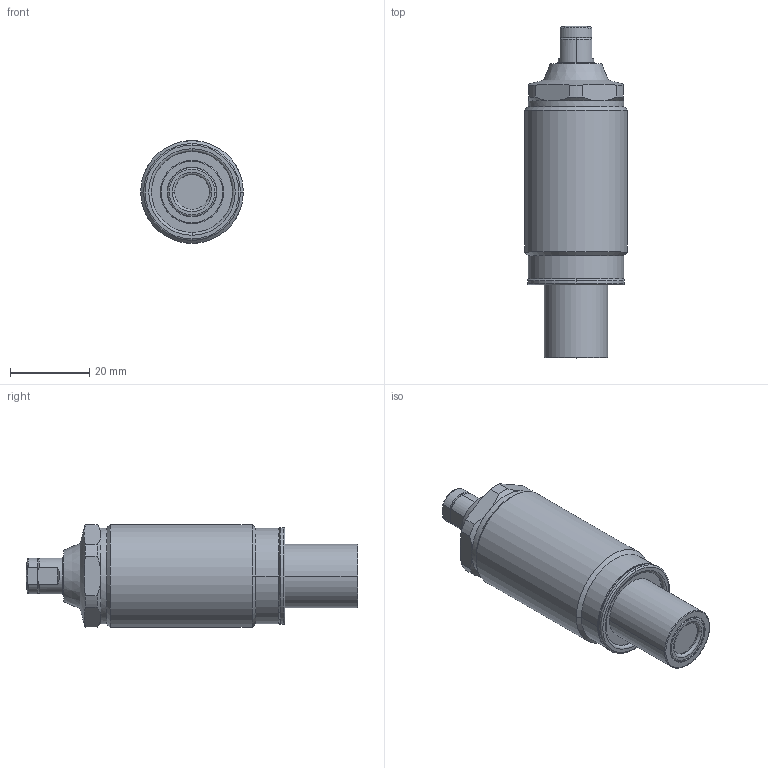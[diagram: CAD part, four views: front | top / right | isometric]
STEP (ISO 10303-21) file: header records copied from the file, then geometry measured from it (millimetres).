
FILE_DESCRIPTION(/* description */ (''),/* implementation_level */ '2;1');
FILE_NAME(/* name */ 'TNL26-Q.stp',/* time_stamp */ '2025-01-09T11:06:54+08:00',/* author */ (''),/* organization */ (''),/* preprocessor_version */ 'ST-DEVELOPER v16.7',/* originating_system */ 'SIEMENS PLM Software NX 12.0',/* authorisation */ '');
FILE_SCHEMA (('AUTOMOTIVE_DESIGN { 1 0 10303 214 3 1 1 1 }'));
Length unit declared in the file: millimetre
Products named in the file (6): TNL26-Q-1961; TNL26-Q-5; TNL26-Q-4; TNL26-Q-3; TNL26-Q-2; TNL26-Q_stp
Assembly tree (5 placements, depth 2):
  TNL26-Q_stp
    TNL26-Q-2
    TNL26-Q-3
    TNL26-Q-4
    TNL26-Q-5
    TNL26-Q-1961
Bounding box: 26 x 84 x 26 mm (x, y, z)
Volume: 31712.6 mm3; surface area: 8003.3 mm2
Topology: 5 solids, 5 shells, 136 faces, 295 edges, 176 vertices
Faces by surface type: torus 41, cylinder 40, plane 34, cone 19, sphere 2
Full cylindrical faces by diameter (mm): 24.2 x1, 26 x1
Entity records: 4058 total; most frequent: CARTESIAN_POINT 872, DIRECTION 726, ORIENTED_EDGE 580, AXIS2_PLACEMENT_3D 326, EDGE_CURVE 290, CIRCLE 184, VERTEX_POINT 176, EDGE_LOOP 154
